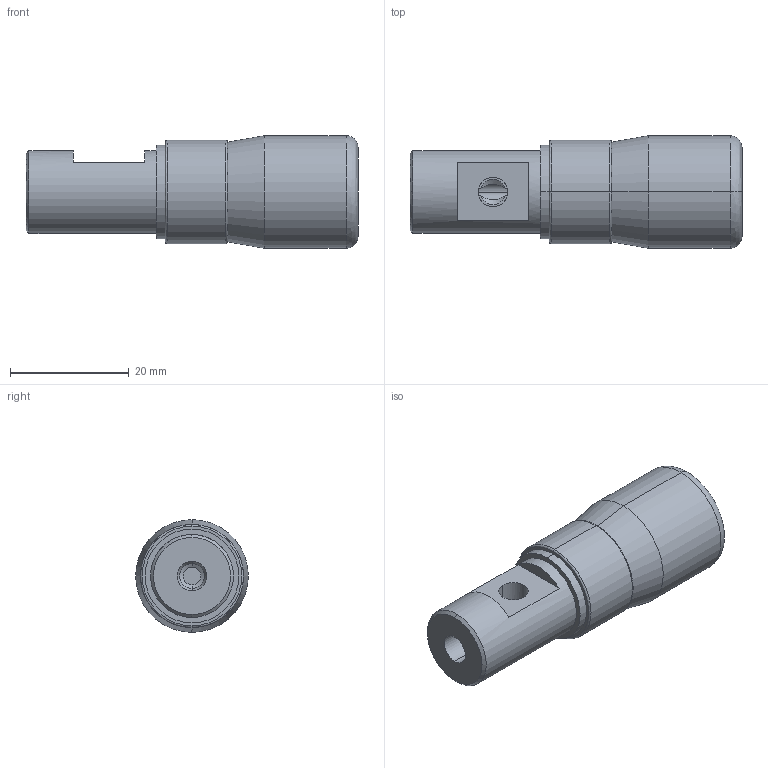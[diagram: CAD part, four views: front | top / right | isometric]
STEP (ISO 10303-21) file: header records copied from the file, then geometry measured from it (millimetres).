
FILE_DESCRIPTION( (''), '2;1');
FILE_NAME ('TGMX25.1684.RBP014RCA_22871.stp','2015-03-30T15:10:46',(''),(''),'spGate 11.3.7','spGate','');
FILE_SCHEMA (('AUTOMOTIVE_DESIGN'));
Length unit declared in the file: millimetre
Bounding box: 56 x 19 x 19 mm (x, y, z)
Volume: 11008.4 mm3; surface area: 4039.3 mm2
Topology: 1 solids, 1 shells, 47 faces, 103 edges, 63 vertices
Faces by surface type: bspline 18, cylinder 18, plane 11
Entity records: 2401 total; most frequent: CARTESIAN_POINT 590, ORIENTED_EDGE 206, DIRECTION 180, COLOUR_RGB 151, PRESENTATION_STYLE_ASSIGNMENT 151, STYLED_ITEM 151, EDGE_CURVE 103, DRAUGHTING_PRE_DEFINED_CURVE_FONT 103
